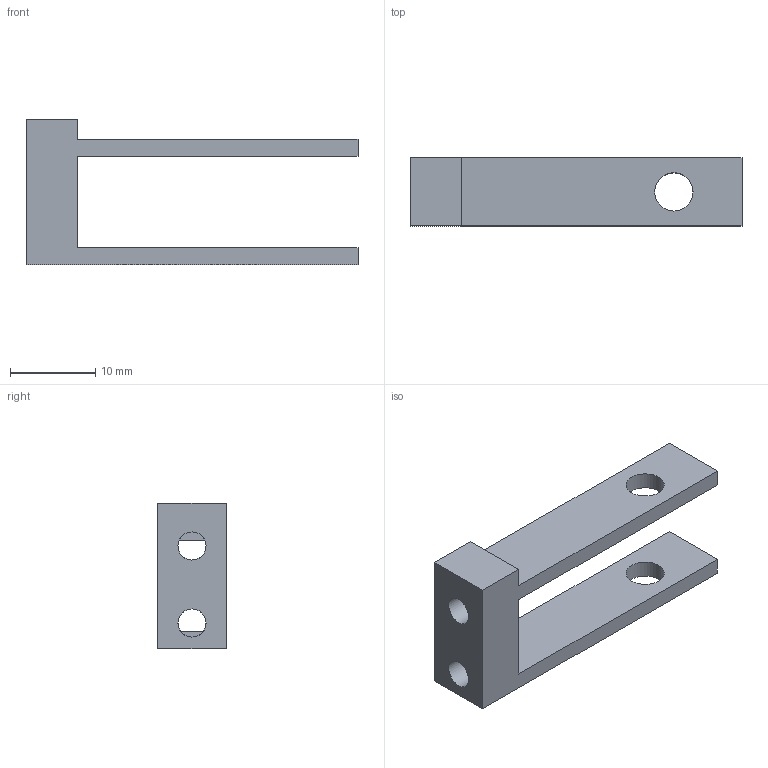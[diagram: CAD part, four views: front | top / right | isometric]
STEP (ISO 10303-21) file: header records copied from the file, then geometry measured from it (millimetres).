
FILE_DESCRIPTION(('FreeCAD Model'),'2;1');
FILE_NAME('Open CASCADE Shape Model','2026-10-30T14:44:40',('FreeCAD'),( 'FreeCAD'),'Open CASCADE STEP processor 7.8','FreeCAD','Unknown');
FILE_SCHEMA(('AUTOMOTIVE_DESIGN { 1 0 10303 214 1 1 1 1 }'));
Length unit declared in the file: millimetre
Products named in the file (1): Open CASCADE STEP translator 7.8 2
Bounding box: 39 x 8 x 17.05 mm (x, y, z)
Volume: 1708.1 mm3; surface area: 1983.3 mm2
Topology: 1 solids, 1 shells, 18 faces, 50 edges, 32 vertices
Faces by surface type: plane 14, cylinder 4
Full cylindrical faces by diameter (mm): 3.3 x2, 4.5 x2
Entity records: 600 total; most frequent: CARTESIAN_POINT 101, DIRECTION 100, ORIENTED_EDGE 100, EDGE_CURVE 50, LINE 38, VECTOR 38, VERTEX_POINT 32, AXIS2_PLACEMENT_3D 31
